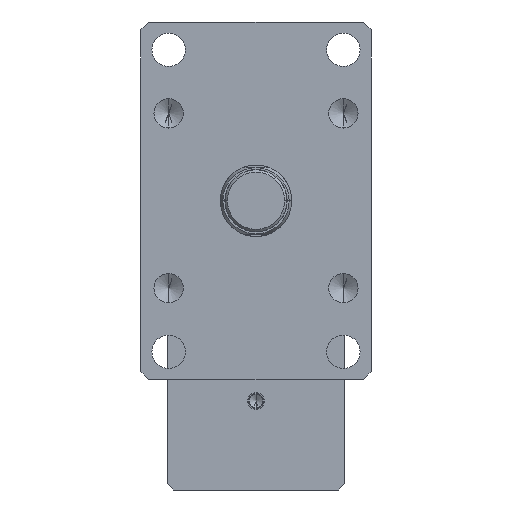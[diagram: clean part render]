
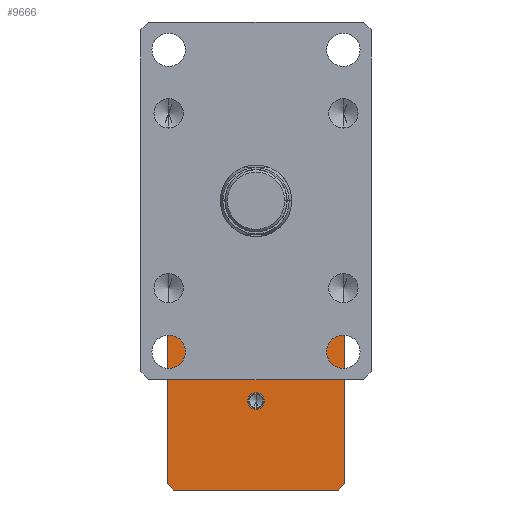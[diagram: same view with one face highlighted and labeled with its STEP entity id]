
A CAD part, left-side view. The second image highlights one B-rep face of the part: STEP entity #9666.
In plain terms, the highlighted planar face has unit normal (-1, 0, 0).
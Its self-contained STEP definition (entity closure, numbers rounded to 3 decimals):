
#531 = CARTESIAN_POINT ( 'NONE',  ( 325., 56., -74. ) ) ;
#651 = DIRECTION ( 'NONE',  ( -1., 0., 0. ) ) ;
#827 = EDGE_LOOP ( 'NONE', ( #7422, #3452 ) ) ;
#893 = VERTEX_POINT ( 'NONE', #4504 ) ;
#1252 = AXIS2_PLACEMENT_3D ( 'NONE', #6441, #12430, #2540 ) ;
#1425 = EDGE_CURVE ( 'NONE', #12762, #4257, #11368, .T. ) ;
#1581 = PLANE ( 'NONE',  #1252 ) ;
#1686 = CARTESIAN_POINT ( 'NONE',  ( 325., 0., -131.143 ) ) ;
#2212 = CARTESIAN_POINT ( 'NONE',  ( 325., -52., -182. ) ) ;
#2440 = LINE ( 'NONE', #8574, #12707 ) ;
#2540 = DIRECTION ( 'NONE',  ( 0., 0., -1. ) ) ;
#2552 = EDGE_LOOP ( 'NONE', ( #6648, #6685, #4535, #6341, #5804, #4300, #6876, #11506 ) ) ;
#2651 = CARTESIAN_POINT ( 'NONE',  ( 325., -56., -182. ) ) ;
#2944 = FACE_OUTER_BOUND ( 'NONE', #2552, .T. ) ;
#3328 = VECTOR ( 'NONE', #5268, 1000. ) ;
#3452 = ORIENTED_EDGE ( 'NONE', *, *, #4800, .F. ) ;
#3467 = VECTOR ( 'NONE', #6552, 1000. ) ;
#3524 = DIRECTION ( 'NONE',  ( 0., 1., 0. ) ) ;
#3660 = VECTOR ( 'NONE', #7398, 1000. ) ;
#3782 = VECTOR ( 'NONE', #8116, 1000. ) ;
#3884 = EDGE_CURVE ( 'NONE', #5798, #12497, #4762, .T. ) ;
#4066 = VERTEX_POINT ( 'NONE', #11062 ) ;
#4115 = VECTOR ( 'NONE', #3524, 1000. ) ;
#4150 = EDGE_CURVE ( 'NONE', #4745, #4066, #8961, .T. ) ;
#4241 = CARTESIAN_POINT ( 'NONE',  ( 325., 56., -178. ) ) ;
#4257 = VERTEX_POINT ( 'NONE', #6533 ) ;
#4258 = EDGE_CURVE ( 'NONE', #12497, #4745, #2440, .T. ) ;
#4300 = ORIENTED_EDGE ( 'NONE', *, *, #1425, .T. ) ;
#4315 = CARTESIAN_POINT ( 'NONE',  ( 325., 0., -120.857 ) ) ;
#4504 = CARTESIAN_POINT ( 'NONE',  ( 325., -56., -178. ) ) ;
#4523 = CARTESIAN_POINT ( 'NONE',  ( 325., 52., -70. ) ) ;
#4535 = ORIENTED_EDGE ( 'NONE', *, *, #4258, .T. ) ;
#4626 = EDGE_CURVE ( 'NONE', #12762, #4066, #8315, .T. ) ;
#4745 = VERTEX_POINT ( 'NONE', #4523 ) ;
#4760 = EDGE_CURVE ( 'NONE', #9403, #4257, #6754, .T. ) ;
#4762 = LINE ( 'NONE', #11687, #12384 ) ;
#4791 = EDGE_CURVE ( 'NONE', #893, #5798, #9095, .T. ) ;
#4800 = EDGE_CURVE ( 'NONE', #9303, #5855, #5814, .T. ) ;
#4879 = CARTESIAN_POINT ( 'NONE',  ( 325., -52., -182. ) ) ;
#5268 = DIRECTION ( 'NONE',  ( 0., 0., 1. ) ) ;
#5434 = VECTOR ( 'NONE', #12801, 1000. ) ;
#5666 = DIRECTION ( 'NONE',  ( -1., 0., 0. ) ) ;
#5798 = VERTEX_POINT ( 'NONE', #10135 ) ;
#5804 = ORIENTED_EDGE ( 'NONE', *, *, #4626, .F. ) ;
#5814 = CIRCLE ( 'NONE', #12738, 5.143 ) ;
#5855 = VERTEX_POINT ( 'NONE', #4315 ) ;
#6341 = ORIENTED_EDGE ( 'NONE', *, *, #4150, .T. ) ;
#6441 = CARTESIAN_POINT ( 'NONE',  ( 325., -56., -182. ) ) ;
#6484 = CARTESIAN_POINT ( 'NONE',  ( 325., 0., -126. ) ) ;
#6533 = CARTESIAN_POINT ( 'NONE',  ( 325., 52., -182. ) ) ;
#6552 = DIRECTION ( 'NONE',  ( 0., 0., 1. ) ) ;
#6648 = ORIENTED_EDGE ( 'NONE', *, *, #4791, .T. ) ;
#6677 = CARTESIAN_POINT ( 'NONE',  ( 325., -52., -70. ) ) ;
#6685 = ORIENTED_EDGE ( 'NONE', *, *, #3884, .T. ) ;
#6754 = LINE ( 'NONE', #10513, #4115 ) ;
#6782 = EDGE_CURVE ( 'NONE', #5855, #9303, #11250, .T. ) ;
#6876 = ORIENTED_EDGE ( 'NONE', *, *, #4760, .F. ) ;
#7398 = DIRECTION ( 'NONE',  ( 0., 0.707, -0.707 ) ) ;
#7422 = ORIENTED_EDGE ( 'NONE', *, *, #6782, .F. ) ;
#7519 = DIRECTION ( 'NONE',  ( 0., 0., 1. ) ) ;
#7933 = AXIS2_PLACEMENT_3D ( 'NONE', #6484, #651, #7519 ) ;
#8116 = DIRECTION ( 'NONE',  ( 0., -0.707, 0.707 ) ) ;
#8315 = LINE ( 'NONE', #10294, #3328 ) ;
#8574 = CARTESIAN_POINT ( 'NONE',  ( 325., -56., -70. ) ) ;
#8686 = DIRECTION ( 'NONE',  ( 0., 0.707, 0.707 ) ) ;
#8791 = CARTESIAN_POINT ( 'NONE',  ( 325., 52., -182. ) ) ;
#8961 = LINE ( 'NONE', #531, #3660 ) ;
#9071 = LINE ( 'NONE', #2212, #3782 ) ;
#9095 = LINE ( 'NONE', #2651, #3467 ) ;
#9303 = VERTEX_POINT ( 'NONE', #1686 ) ;
#9403 = VERTEX_POINT ( 'NONE', #4879 ) ;
#9666 = ADVANCED_FACE ( 'NONE', ( #10252, #2944 ), #1581, .F. ) ;
#10135 = CARTESIAN_POINT ( 'NONE',  ( 325., -56., -74. ) ) ;
#10252 = FACE_BOUND ( 'NONE', #827, .T. ) ;
#10294 = CARTESIAN_POINT ( 'NONE',  ( 325., 56., -182. ) ) ;
#10513 = CARTESIAN_POINT ( 'NONE',  ( 325., -56., -182. ) ) ;
#11062 = CARTESIAN_POINT ( 'NONE',  ( 325., 56., -74. ) ) ;
#11250 = CIRCLE ( 'NONE', #7933, 5.143 ) ;
#11368 = LINE ( 'NONE', #8791, #5434 ) ;
#11506 = ORIENTED_EDGE ( 'NONE', *, *, #12704, .T. ) ;
#11564 = DIRECTION ( 'NONE',  ( 0., 1., 0. ) ) ;
#11634 = CARTESIAN_POINT ( 'NONE',  ( 325., 0., -126. ) ) ;
#11687 = CARTESIAN_POINT ( 'NONE',  ( 325., -56., -74. ) ) ;
#12384 = VECTOR ( 'NONE', #8686, 1000. ) ;
#12430 = DIRECTION ( 'NONE',  ( 1., 0., 0. ) ) ;
#12497 = VERTEX_POINT ( 'NONE', #6677 ) ;
#12645 = DIRECTION ( 'NONE',  ( 0., 0., 1. ) ) ;
#12704 = EDGE_CURVE ( 'NONE', #9403, #893, #9071, .T. ) ;
#12707 = VECTOR ( 'NONE', #11564, 1000. ) ;
#12738 = AXIS2_PLACEMENT_3D ( 'NONE', #11634, #5666, #12645 ) ;
#12762 = VERTEX_POINT ( 'NONE', #4241 ) ;
#12801 = DIRECTION ( 'NONE',  ( 0., -0.707, -0.707 ) ) ;
